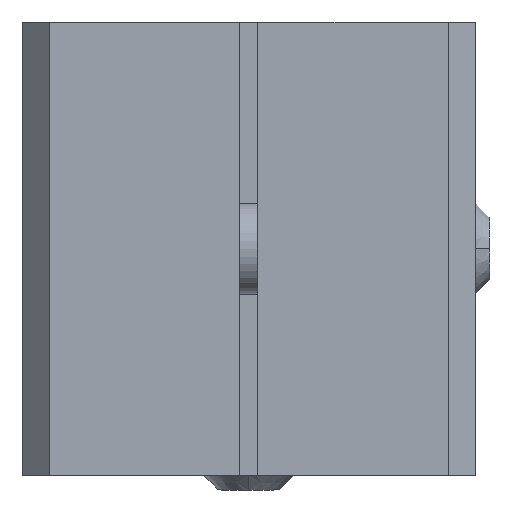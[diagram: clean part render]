
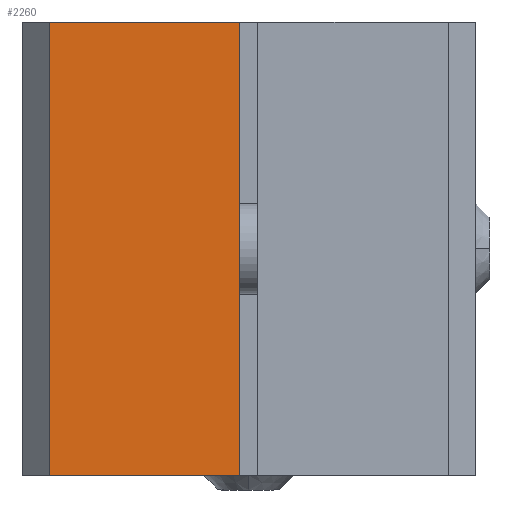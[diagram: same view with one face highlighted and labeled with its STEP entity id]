
A CAD part, left-side view. The second image highlights one B-rep face of the part: STEP entity #2260.
In plain terms, the highlighted planar face has unit normal (-1, 0, 0).
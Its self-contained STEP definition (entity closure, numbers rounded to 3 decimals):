
#276 = CARTESIAN_POINT ( 'NONE',  ( -87.926, 33.192, -12.5 ) ) ;
#1162 = DIRECTION ( 'NONE',  ( 0., 0., -1. ) ) ;
#1284 = CARTESIAN_POINT ( 'NONE',  ( -87.926, 33.192, 0. ) ) ;
#1370 = DIRECTION ( 'NONE',  ( 0., 0., -1. ) ) ;
#1611 = EDGE_CURVE ( 'NONE', #13477, #14866, #16332, .T. ) ;
#1683 = VECTOR ( 'NONE', #1370, 1000. ) ;
#2260 = ADVANCED_FACE ( 'NONE', ( #22380 ), #10152, .F. ) ;
#2529 = CARTESIAN_POINT ( 'NONE',  ( -87.926, 22.692, 12.5 ) ) ;
#3178 = AXIS2_PLACEMENT_3D ( 'NONE', #14356, #14427, #14592 ) ;
#4059 = VECTOR ( 'NONE', #12890, 1000. ) ;
#5476 = DIRECTION ( 'NONE',  ( 0., 1., 0. ) ) ;
#6795 = CARTESIAN_POINT ( 'NONE',  ( -87.926, 22.692, -12.5 ) ) ;
#8782 = EDGE_CURVE ( 'NONE', #15392, #15674, #13729, .T. ) ;
#8790 = LINE ( 'NONE', #21692, #4059 ) ;
#10122 = CARTESIAN_POINT ( 'NONE',  ( -87.926, 22.692, 0. ) ) ;
#10152 = PLANE ( 'NONE',  #3178 ) ;
#12890 = DIRECTION ( 'NONE',  ( 0., -1., 0. ) ) ;
#12957 = VECTOR ( 'NONE', #5476, 1000. ) ;
#13203 = ORIENTED_EDGE ( 'NONE', *, *, #1611, .T. ) ;
#13477 = VERTEX_POINT ( 'NONE', #20077 ) ;
#13729 = LINE ( 'NONE', #10122, #22588 ) ;
#14257 = CARTESIAN_POINT ( 'NONE',  ( -87.926, 22.192, -12.5 ) ) ;
#14356 = CARTESIAN_POINT ( 'NONE',  ( -87.926, 22.692, 12.5 ) ) ;
#14427 = DIRECTION ( 'NONE',  ( 1., 0., 0. ) ) ;
#14592 = DIRECTION ( 'NONE',  ( 0., 0., -1. ) ) ;
#14866 = VERTEX_POINT ( 'NONE', #276 ) ;
#15392 = VERTEX_POINT ( 'NONE', #2529 ) ;
#15674 = VERTEX_POINT ( 'NONE', #6795 ) ;
#15912 = ORIENTED_EDGE ( 'NONE', *, *, #17580, .F. ) ;
#16332 = LINE ( 'NONE', #1284, #1683 ) ;
#17580 = EDGE_CURVE ( 'NONE', #15674, #14866, #22369, .T. ) ;
#18386 = ORIENTED_EDGE ( 'NONE', *, *, #22825, .F. ) ;
#19762 = EDGE_LOOP ( 'NONE', ( #15912, #22061, #18386, #13203 ) ) ;
#20077 = CARTESIAN_POINT ( 'NONE',  ( -87.926, 33.192, 12.5 ) ) ;
#21692 = CARTESIAN_POINT ( 'NONE',  ( -87.926, 27.942, 12.5 ) ) ;
#22061 = ORIENTED_EDGE ( 'NONE', *, *, #8782, .F. ) ;
#22369 = LINE ( 'NONE', #14257, #12957 ) ;
#22380 = FACE_OUTER_BOUND ( 'NONE', #19762, .T. ) ;
#22588 = VECTOR ( 'NONE', #1162, 1000. ) ;
#22825 = EDGE_CURVE ( 'NONE', #13477, #15392, #8790, .T. ) ;
